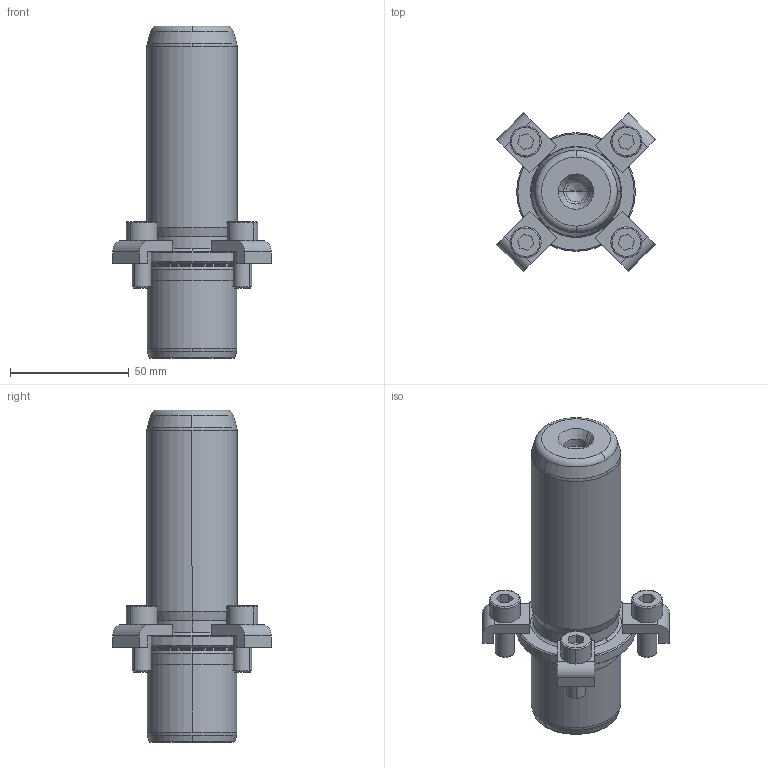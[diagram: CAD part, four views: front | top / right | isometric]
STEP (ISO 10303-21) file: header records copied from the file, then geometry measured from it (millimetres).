
FILE_DESCRIPTION((''),'2;1');
FILE_NAME('P21_038_100.stp','2008-12-23T10:51:20',(''),(''),'Mechanical Desktop 2009','Mechanical Desktop 2009',', , ');
FILE_SCHEMA(('CONFIG_CONTROL_DESIGN'));
Length unit declared in the file: millimetre
Products named in the file (2): Product; blmdl1
Assembly tree (1 placements, depth 2):
  Product
    blmdl1
Bounding box: 66.82 x 66.82 x 140 mm (x, y, z)
Volume: 169706.6 mm3; surface area: 31049.9 mm2
Topology: 9 solids, 9 shells, 195 faces, 477 edges, 309 vertices
Faces by surface type: plane 77, cylinder 52, cone 34, torus 16, bspline 16
Entity records: 6547 total; most frequent: CARTESIAN_POINT 1683, DIRECTION 1078, ORIENTED_EDGE 946, EDGE_CURVE 473, AXIS2_PLACEMENT_3D 424, VERTEX_POINT 309, CIRCLE 243, VECTOR 230
